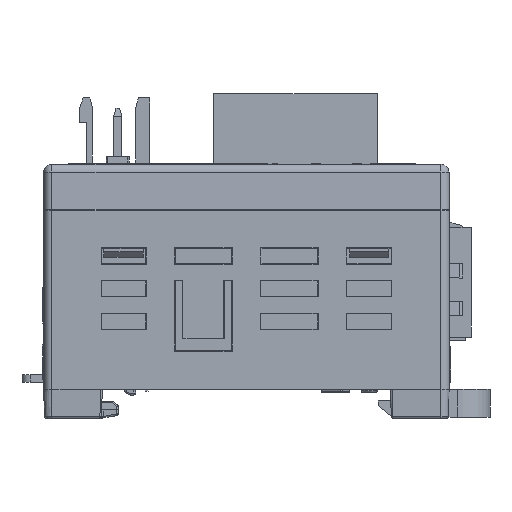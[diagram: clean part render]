
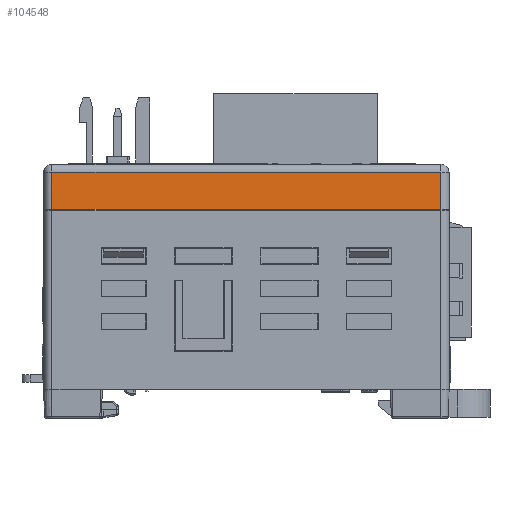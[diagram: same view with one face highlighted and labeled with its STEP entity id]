
A CAD part, left-side view. The second image highlights one B-rep face of the part: STEP entity #104548.
In plain terms, the highlighted planar face has unit normal (-0.999, 0, 0.035).
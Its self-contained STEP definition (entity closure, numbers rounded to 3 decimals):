
#281=CARTESIAN_POINT('',(-29.75,-23.75,25.5));
#422=DIRECTION('',(0.,-1.,0.));
#423=VECTOR('',#422,47.5);
#424=CARTESIAN_POINT('',(-29.592,23.75,30.035));
#425=LINE('',#424,#423);
#441=DIRECTION('',(-0.035,0.,-0.999));
#442=VECTOR('',#441,4.538);
#443=CARTESIAN_POINT('',(-29.592,-23.75,30.035));
#444=LINE('',#443,#442);
#23714=DIRECTION('',(0.035,0.,0.999));
#23715=VECTOR('',#23714,4.538);
#23716=CARTESIAN_POINT('',(-29.75,23.75,
25.5));
#23717=LINE('',#23716,#23715);
#23718=DIRECTION('',(0.,-1.,0.));
#23719=VECTOR('',#23718,47.5);
#23720=CARTESIAN_POINT('',(-29.75,23.75,
25.5));
#23721=LINE('',#23720,#23719);
#44968=VERTEX_POINT('',#281);
#44969=CARTESIAN_POINT('',(-29.75,23.75,
25.5));
#44970=VERTEX_POINT('',#44969);
#45017=CARTESIAN_POINT('',(-29.592,-23.75,
30.035));
#45018=VERTEX_POINT('',#45017);
#45019=CARTESIAN_POINT('',(-29.592,23.75,30.035));
#45020=VERTEX_POINT('',#45019);
#104537=CARTESIAN_POINT('',(-29.671,0.,27.767));
#104538=DIRECTION('',(0.999,0.,-0.035));
#104539=DIRECTION('',(0.,1.,0.));
#104540=AXIS2_PLACEMENT_3D('',#104537,#104538,#104539);
#104541=PLANE('',#104540);
#104542=ORIENTED_EDGE('',*,*,#57605,.T.);
#104543=ORIENTED_EDGE('',*,*,#57647,.T.);
#104544=ORIENTED_EDGE('',*,*,#57272,.F.);
#104545=ORIENTED_EDGE('',*,*,#104523,.T.);
#104546=EDGE_LOOP('',(#104542,#104543,#104544,#104545));
#104547=FACE_OUTER_BOUND('',#104546,.F.);
#104548=ADVANCED_FACE('',(#104547),#104541,.F.);
#57272=EDGE_CURVE('',#44970,#44968,#23721,.T.);
#57605=EDGE_CURVE('',#45020,#45018,#425,.T.);
#57647=EDGE_CURVE('',#45018,#44968,#444,.T.);
#104523=EDGE_CURVE('',#44970,#45020,#23717,.T.);
